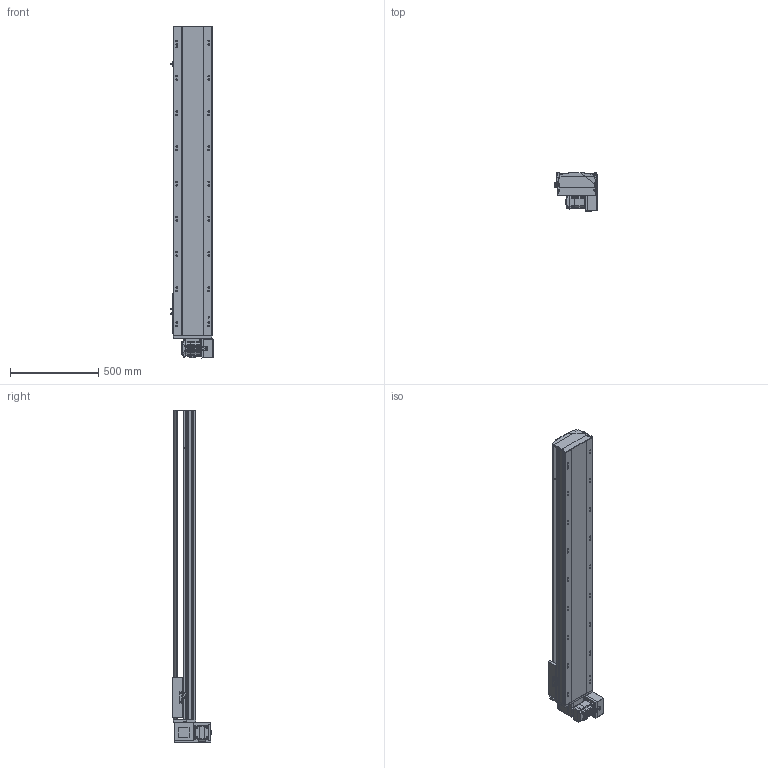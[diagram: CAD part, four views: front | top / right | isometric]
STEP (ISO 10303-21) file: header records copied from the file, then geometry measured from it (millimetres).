
FILE_DESCRIPTION (( 'STEP AP214' ), '1' );
FILE_NAME ('TPT22M-L40-1400-LD-T75-C4.STEP', '2023-04-12T00:37:38', ( '' ), ( '' ), 'SwSTEP 2.0', 'SolidWorks 2020', '' );
FILE_SCHEMA (( 'AUTOMOTIVE_DESIGN' ));
Length unit declared in the file: millimetre
Products named in the file (9): 葩璃 TPT22-L-002 奻裔MZ-220-02^TPT22M-L40-LD-T75-C4; 葩璃 TPT22-L-009 萇儂啣^TPT22M-L40-LD-T75-C4; 葩璃 MSMD08PC_P75^TPT22M-L40-LD-T75-C4; 葩璃 TPT22-L-001 菁釱MZ-220-01^TPT22M-L40-LD-T75-C4; hexagon head bolts-full thread gb_GB_FASTENER_BOLT_STBAB A M5X16-N; 葩璃 TPT22-L-007 々湍釱^TPT22M-L40-LD-T75-C4; TPT22M-L40-1400-LD-T75-C4; 葩璃 pm-t65-672^TPT22M-L40-LD-T75-C4; 葩璃 TPT22-L-005 賑釱MZ-220-03^TPT22M-L40-LD-T75-C4
Assembly tree (10 placements, depth 2):
  TPT22M-L40-1400-LD-T75-C4
    葩璃 TPT22-L-001 菁釱MZ-220-01^TPT22M-L40-LD-T75-C4
    葩璃 TPT22-L-002 奻裔MZ-220-02^TPT22M-L40-LD-T75-C4
    葩璃 TPT22-L-005 賑釱MZ-220-03^TPT22M-L40-LD-T75-C4
    葩璃 TPT22-L-007 々湍釱^TPT22M-L40-LD-T75-C4
    葩璃 TPT22-L-009 萇儂啣^TPT22M-L40-LD-T75-C4
    葩璃 pm-t65-672^TPT22M-L40-LD-T75-C4  x3
    葩璃 MSMD08PC_P75^TPT22M-L40-LD-T75-C4
    hexagon head bolts-full thread gb_GB_FASTENER_BOLT_STBAB A M5X16-N
Bounding box: 239.2 x 225.65 x 1886 mm (x, y, z)
Volume: 25691637.3 mm3; surface area: 2678365.3 mm2
Topology: 17 solids, 17 shells, 1799 faces, 4749 edges, 3037 vertices
Faces by surface type: plane 981, cylinder 668, cone 128, bspline 22
Entity records: 51627 total; most frequent: CARTESIAN_POINT 10469, DIRECTION 8320, ORIENTED_EDGE 8026, EDGE_CURVE 4013, AXIS2_PLACEMENT_3D 2859, VERTEX_POINT 2609, VECTOR 2602, LINE 2602
